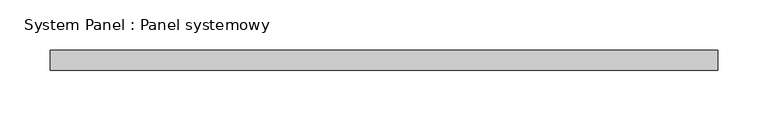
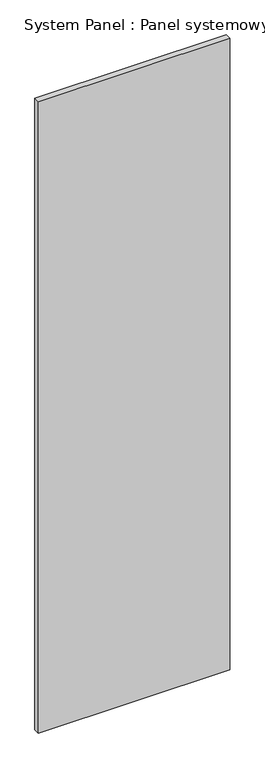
"""IFC4 building model written with IfcOpenShell, lengths in millimetres: plate geometry, System Panel : Panel systemowy."""

from ifc_helpers import new_model, si_unit, origin, origin_with_axes, place, context, project, spatial, polyline, outline, extrude, source, transform, mapped, element, save


def system_panel_panel_systemowy_91dd9178(model_context):
    return source(origin(), model_context, "Body", "SweptSolid", [
        extrude(outline(polyline([(333.3333333, -10.0), (-333.3333333, -10.0), (-333.3333333, 10.0), (333.3333333, 10.0), (333.3333333, -10.0)])), origin_with_axes(), (0.0, 0.0, 1.0), 2325.0),
    ])


if __name__ == "__main__":
    model = new_model("IFC4")
    model_context = context("Model", 3, world=origin())
    ifc_project = project(units=[si_unit("LENGTHUNIT", "METRE", prefix="MILLI")], contexts=[model_context])
    site = spatial("IfcSite", under=ifc_project)
    building = spatial("IfcBuilding", under=site)
    placement = place(None, origin())
    system_panel_panel_systemowy_shape = system_panel_panel_systemowy_91dd9178(model_context)
    element("IfcPlate", 1, ObjectType="System Panel : Panel systemowy", at=placement, inside=building, context=model_context, shape_type="MappedRepresentation", body=[
        mapped(system_panel_panel_systemowy_shape, transform((0.0, 0.0, 0.0), x_axis=(1.0, 0.0, 0.0), y_axis=(0.0, 1.0, 0.0), z_axis=(0.0, 0.0, 1.0))),
    ])
    save(model, "model.ifc")
